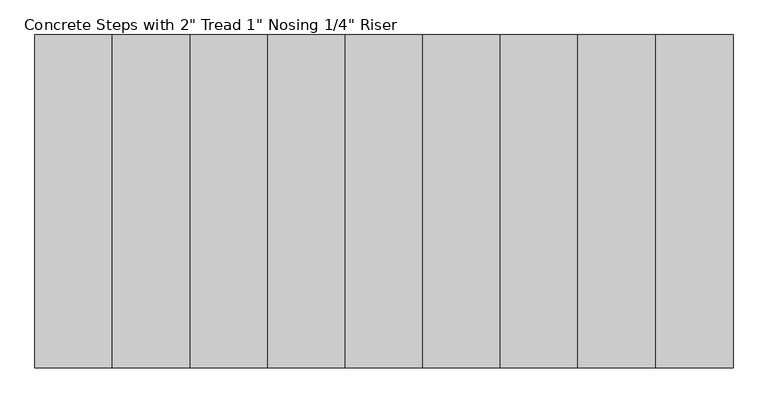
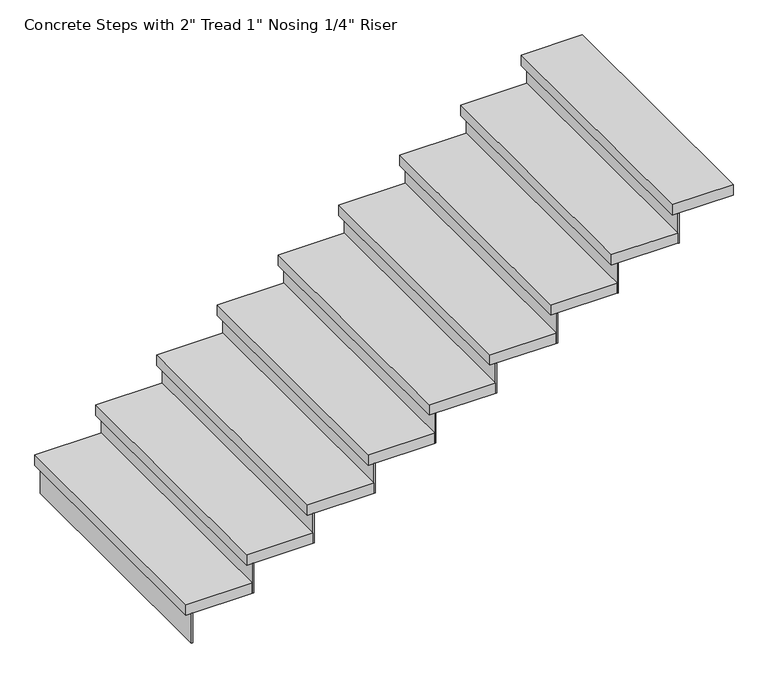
"""IFC4 building model written with IfcOpenShell, lengths in millimetres: stair flight geometry."""

from ifc_helpers import new_model, si_unit, frame, origin, place, context, project, spatial, polyline, outline, extrude, source, transform, mapped, element, save


def stair_flight_37ca03c5(model_context):
    return source(origin(), model_context, "Body", "SweptSolid", [
        extrude(outline(polyline([(-14833.3313244, -31422.1775116), (-14839.6813244, -31422.1775116), (-14839.6813244, -30221.1689116), (-14833.3313244, -30221.1689116), (-14833.3313244, -31422.1775116)])), frame((0.0, 0.0, 1690.9142857), z_axis=(0.0, 0.0, 1.0), x_axis=(1.0, 0.0, 0.0)), (0.0, 0.0, 1.0), 145.1428571),
        extrude(outline(polyline([(-14560.2813244, -30221.1689116), (-14560.2813244, -31422.1775116), (-14865.0813244, -31422.1775116), (-14865.0813244, -30221.1689116), (-14560.2813244, -30221.1689116)])), frame((0.0, 0.0, 1836.0571429), z_axis=(0.0, 0.0, 1.0), x_axis=(1.0, 0.0, 0.0)), (0.0, 0.0, 1.0), 50.8),
        extrude(outline(polyline([(-14553.9313244, -31422.1775116), (-14560.2813244, -31422.1775116), (-14560.2813244, -30221.1689116), (-14553.9313244, -30221.1689116), (-14553.9313244, -31422.1775116)])), frame((0.0, 0.0, 1836.0571429), z_axis=(0.0, 0.0, 1.0), x_axis=(1.0, 0.0, 0.0)), (0.0, 0.0, 1.0), 145.1428571),
        extrude(outline(polyline([(-14280.8813244, -30221.1689116), (-14280.8813244, -31422.1775116), (-14585.6813244, -31422.1775116), (-14585.6813244, -30221.1689116), (-14280.8813244, -30221.1689116)])), frame((0.0, 0.0, 1981.2), z_axis=(0.0, 0.0, 1.0), x_axis=(1.0, 0.0, 0.0)), (0.0, 0.0, 1.0), 50.8),
        extrude(outline(polyline([(-14274.5313244, -31422.1775116), (-14280.8813244, -31422.1775116), (-14280.8813244, -30221.1689116), (-14274.5313244, -30221.1689116), (-14274.5313244, -31422.1775116)])), frame((0.0, 0.0, 1981.2), z_axis=(0.0, 0.0, 1.0), x_axis=(1.0, 0.0, 0.0)), (0.0, 0.0, 1.0), 145.1428571),
        extrude(outline(polyline([(-14001.4813244, -30221.1689116), (-14001.4813244, -31422.1775116), (-14306.2813244, -31422.1775116), (-14306.2813244, -30221.1689116), (-14001.4813244, -30221.1689116)])), frame((0.0, 0.0, 2126.3428571), z_axis=(0.0, 0.0, 1.0), x_axis=(1.0, 0.0, 0.0)), (0.0, 0.0, 1.0), 50.8),
        extrude(outline(polyline([(-13995.1313244, -31422.1775116), (-14001.4813244, -31422.1775116), (-14001.4813244, -30221.1689116), (-13995.1313244, -30221.1689116), (-13995.1313244, -31422.1775116)])), frame((0.0, 0.0, 2126.3428571), z_axis=(0.0, 0.0, 1.0), x_axis=(1.0, 0.0, 0.0)), (0.0, 0.0, 1.0), 145.1428571),
        extrude(outline(polyline([(-13722.0813244, -30221.1689116), (-13722.0813244, -31422.1775116), (-14026.8813244, -31422.1775116), (-14026.8813244, -30221.1689116), (-13722.0813244, -30221.1689116)])), frame((0.0, 0.0, 2271.4857143), z_axis=(0.0, 0.0, 1.0), x_axis=(1.0, 0.0, 0.0)), (0.0, 0.0, 1.0), 50.8),
        extrude(outline(polyline([(-13715.7313244, -31422.1775116), (-13722.0813244, -31422.1775116), (-13722.0813244, -30221.1689116), (-13715.7313244, -30221.1689116), (-13715.7313244, -31422.1775116)])), frame((0.0, 0.0, 2271.4857143), z_axis=(0.0, 0.0, 1.0), x_axis=(1.0, 0.0, 0.0)), (0.0, 0.0, 1.0), 145.1428571),
        extrude(outline(polyline([(-13442.6813244, -30221.1689116), (-13442.6813244, -31422.1775116), (-13747.4813244, -31422.1775116), (-13747.4813244, -30221.1689116), (-13442.6813244, -30221.1689116)])), frame((0.0, 0.0, 2416.6285714), z_axis=(0.0, 0.0, 1.0), x_axis=(1.0, 0.0, 0.0)), (0.0, 0.0, 1.0), 50.8),
        extrude(outline(polyline([(-13436.3313244, -31422.1775116), (-13442.6813244, -31422.1775116), (-13442.6813244, -30221.1689116), (-13436.3313244, -30221.1689116), (-13436.3313244, -31422.1775116)])), frame((0.0, 0.0, 2416.6285714), z_axis=(0.0, 0.0, 1.0), x_axis=(1.0, 0.0, 0.0)), (0.0, 0.0, 1.0), 145.1428571),
        extrude(outline(polyline([(-13163.2813244, -30221.1689116), (-13163.2813244, -31422.1775116), (-13468.0813244, -31422.1775116), (-13468.0813244, -30221.1689116), (-13163.2813244, -30221.1689116)])), frame((0.0, 0.0, 2561.7714286), z_axis=(0.0, 0.0, 1.0), x_axis=(1.0, 0.0, 0.0)), (0.0, 0.0, 1.0), 50.8),
        extrude(outline(polyline([(-13156.9313244, -31422.1775116), (-13163.2813244, -31422.1775116), (-13163.2813244, -30221.1689116), (-13156.9313244, -30221.1689116), (-13156.9313244, -31422.1775116)])), frame((0.0, 0.0, 2561.7714286), z_axis=(0.0, 0.0, 1.0), x_axis=(1.0, 0.0, 0.0)), (0.0, 0.0, 1.0), 145.1428571),
        extrude(outline(polyline([(-12883.8813244, -30221.1689116), (-12883.8813244, -31422.1775116), (-13188.6813244, -31422.1775116), (-13188.6813244, -30221.1689116), (-12883.8813244, -30221.1689116)])), frame((0.0, 0.0, 2706.9142857), z_axis=(0.0, 0.0, 1.0), x_axis=(1.0, 0.0, 0.0)), (0.0, 0.0, 1.0), 50.8),
        extrude(outline(polyline([(-12877.5313244, -31422.1775116), (-12883.8813244, -31422.1775116), (-12883.8813244, -30221.1689116), (-12877.5313244, -30221.1689116), (-12877.5313244, -31422.1775116)])), frame((0.0, 0.0, 2706.9142857), z_axis=(0.0, 0.0, 1.0), x_axis=(1.0, 0.0, 0.0)), (0.0, 0.0, 1.0), 145.1428571),
        extrude(outline(polyline([(-12604.4813244, -30221.1689116), (-12604.4813244, -31422.1775116), (-12909.2813244, -31422.1775116), (-12909.2813244, -30221.1689116), (-12604.4813244, -30221.1689116)])), frame((0.0, 0.0, 2852.0571429), z_axis=(0.0, 0.0, 1.0), x_axis=(1.0, 0.0, 0.0)), (0.0, 0.0, 1.0), 50.8),
        extrude(outline(polyline([(-12598.1313244, -31422.1775116), (-12604.4813244, -31422.1775116), (-12604.4813244, -30221.1689116), (-12598.1313244, -30221.1689116), (-12598.1313244, -31422.1775116)])), frame((0.0, 0.0, 2852.0571429), z_axis=(0.0, 0.0, 1.0), x_axis=(1.0, 0.0, 0.0)), (0.0, 0.0, 1.0), 145.1428571),
        extrude(outline(polyline([(-12350.4813244, -30221.1689116), (-12350.4813244, -31422.1775116), (-12629.8813244, -31422.1775116), (-12629.8813244, -30221.1689116), (-12350.4813244, -30221.1689116)])), frame((0.0, 0.0, 2997.2), z_axis=(0.0, 0.0, 1.0), x_axis=(1.0, 0.0, 0.0)), (0.0, 0.0, 1.0), 50.8),
    ])


if __name__ == "__main__":
    model = new_model("IFC4")
    model_context = context("Model", 3, world=origin())
    ifc_project = project(units=[si_unit("LENGTHUNIT", "METRE", prefix="MILLI")], contexts=[model_context])
    site = spatial("IfcSite", under=ifc_project)
    building = spatial("IfcBuilding", under=site)
    placement = place(None, origin())
    stair_flight_shape = stair_flight_37ca03c5(model_context)
    element("IfcStairFlight", 1, ObjectType="Concrete Steps with 2\" Tread 1\" Nosing 1/4\" Riser", at=placement, inside=building, context=model_context, shape_type="MappedRepresentation", body=[
        mapped(stair_flight_shape, transform((0.0, 0.0, 0.0), x_axis=(1.0, 0.0, 0.0), y_axis=(0.0, 1.0, 0.0), z_axis=(0.0, 0.0, 1.0))),
    ])
    save(model, "model.ifc")
